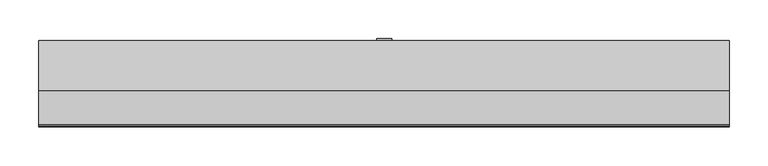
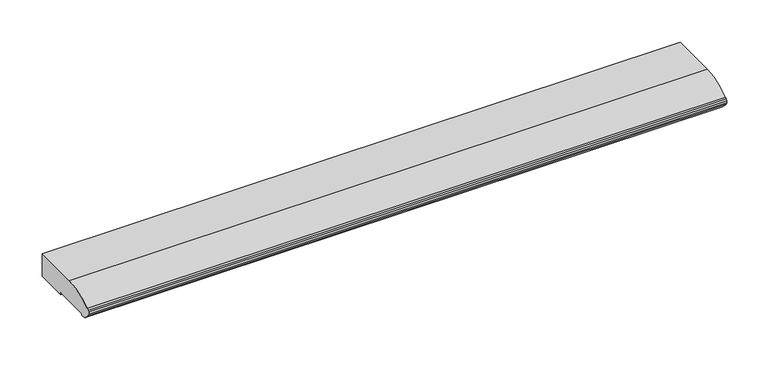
"""IFC4 building model written with IfcOpenShell, lengths in millimetres: furniture geometry, Steelcase - Answer Solution - Lighting - Bottomline Shelf Light : With Daisy Chain Cord - 35W."""

from ifc_helpers import new_model, si_unit, point, frame, frame_2d, origin, place, context, project, spatial, polyline, circle_curve, trimmed, segment, composite_curve, outline, extrude, source, transform, mapped, element, save


def furniture_247991a5(model_context):
    return source(origin(), model_context, "Body", "SweptSolid", [
        extrude(outline(polyline([(104.456825, 1278.001062), (101.9168184, 1278.001062), (101.9168184, 1275.8796799), (94.2968256, 1275.8796799), (94.2968256, 1278.001062), (91.756819, 1278.001062), (91.756819, 1280.4435676), (104.456825, 1280.4435676), (104.456825, 1278.001062)])), frame((-9.2714311, 0.0, 0.0), z_axis=(1.0, 0.0, 0.0), x_axis=(0.0, 1.0, 0.0)), (0.0, 0.0, 1.0), 19.05),
        extrude(outline(polyline([(9.7785689, 126.0468221), (9.7785689, 123.506825), (-9.2714311, 123.506825), (-9.2714311, 126.0468221), (9.7785689, 126.0468221)])), frame((0.0, 0.0, 1301.4509122), z_axis=(0.0, 0.0, 1.0), x_axis=(1.0, 0.0, 0.0)), (0.0, 0.0, 1.0), 8.9350878),
        extrude(outline(composite_curve([segment(polyline([(58.3812977, 1313.5609554), (123.506825, 1313.5609554), (123.506825, 1280.4435676), (79.056825, 1280.4435676), (79.056825, 1283.0809845), (28.2568216, 1283.0809845), (28.2568216, 1280.541), (21.9068453, 1280.541), (13.476352, 1288.9714933)]), True, "CONTINUOUS"), segment(trimmed(circle_curve(frame_2d((16.4253859, 1291.9205272)), 4.1705637), [point((13.476352, 1288.9714933))], [point((12.2548221, 1291.9205272))], False, "CARTESIAN"), True, "CONTINUOUS"), segment(polyline([(12.2548221, 1291.9205272), (12.2548221, 1295.401678)]), True, "CONTINUOUS"), segment(trimmed(circle_curve(frame_2d((14.6623612, 1295.401678)), 2.407539), [point((12.2548221, 1295.401678))], [point((13.3471912, 1297.4182524))], False, "CARTESIAN"), True, "CONTINUOUS"), segment(trimmed(circle_curve(frame_2d((-7.9940104, 1330.1411108)), 39.0670238), [point((13.3471912, 1297.4182524))], [point((15.1696915, 1298.6820062))], True, "CARTESIAN"), True, "CONTINUOUS"), segment(trimmed(circle_curve(frame_2d((60.566323, 1237.0278984)), 76.564242), [point((15.1696915, 1298.6820062))], [point((58.3812977, 1313.5609554))], False, "CARTESIAN"), True, "CONTINUOUS")], self_intersect=False)), frame((-444.5004311, 0.0, 0.0), z_axis=(1.0, 0.0, 0.0), x_axis=(0.0, 1.0, 0.0)), (0.0, 0.0, 1.0), 889.0),
    ])


if __name__ == "__main__":
    model = new_model("IFC4")
    model_context = context("Model", 3, world=origin())
    ifc_project = project(units=[si_unit("LENGTHUNIT", "METRE", prefix="MILLI")], contexts=[model_context])
    site = spatial("IfcSite", under=ifc_project)
    building = spatial("IfcBuilding", under=site)
    placement = place(None, origin())
    furniture_shape = furniture_247991a5(model_context)
    element("IfcFurniture", 1, ObjectType="Steelcase - Answer Solution - Lighting - Bottomline Shelf Light : With Daisy Chain Cord - 35W", at=placement, inside=building, context=model_context, shape_type="MappedRepresentation", body=[
        mapped(furniture_shape, transform((0.0, 0.0, 0.0), x_axis=(1.0, 0.0, 0.0), y_axis=(0.0, 1.0, 0.0), z_axis=(0.0, 0.0, 1.0))),
    ])
    save(model, "model.ifc")
